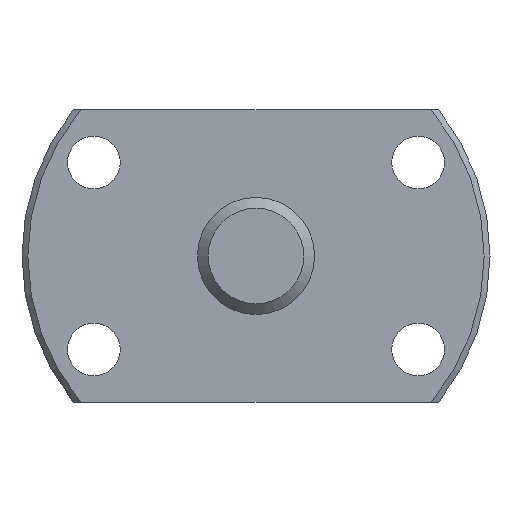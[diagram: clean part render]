
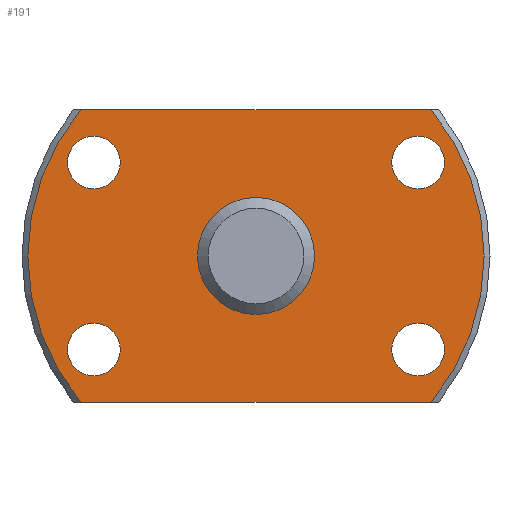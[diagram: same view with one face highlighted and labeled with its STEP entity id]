
A CAD part, left-side view. The second image highlights one B-rep face of the part: STEP entity #191.
In plain terms, the highlighted planar face has unit normal (-1, 0, 0).
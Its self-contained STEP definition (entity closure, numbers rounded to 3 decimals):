
#191 = ADVANCED_FACE( '', ( #271, #272, #273, #274, #275, #276 ), #277, .T. );
#271 = FACE_BOUND( '', #393, .T. );
#272 = FACE_BOUND( '', #394, .T. );
#273 = FACE_BOUND( '', #395, .T. );
#274 = FACE_BOUND( '', #396, .T. );
#275 = FACE_BOUND( '', #397, .T. );
#276 = FACE_OUTER_BOUND( '', #398, .T. );
#277 = PLANE( '', #399 );
#393 = EDGE_LOOP( '', ( #619 ) );
#394 = EDGE_LOOP( '', ( #620 ) );
#395 = EDGE_LOOP( '', ( #621 ) );
#396 = EDGE_LOOP( '', ( #622 ) );
#397 = EDGE_LOOP( '', ( #623 ) );
#398 = EDGE_LOOP( '', ( #624, #625, #626, #627 ) );
#399 = AXIS2_PLACEMENT_3D( '', #628, #629, #630 );
#619 = ORIENTED_EDGE( '', *, *, #854, .T. );
#620 = ORIENTED_EDGE( '', *, *, #856, .T. );
#621 = ORIENTED_EDGE( '', *, *, #857, .T. );
#622 = ORIENTED_EDGE( '', *, *, #858, .T. );
#623 = ORIENTED_EDGE( '', *, *, #859, .T. );
#624 = ORIENTED_EDGE( '', *, *, #848, .F. );
#625 = ORIENTED_EDGE( '', *, *, #860, .F. );
#626 = ORIENTED_EDGE( '', *, *, #819, .F. );
#627 = ORIENTED_EDGE( '', *, *, #861, .F. );
#628 = CARTESIAN_POINT( '', ( 0., 19.5, 0. ) );
#629 = DIRECTION( '', ( -1., 0., 0. ) );
#630 = DIRECTION( '', ( 0., 0., 1. ) );
#819 = EDGE_CURVE( '', #933, #935, #936, .T. );
#848 = EDGE_CURVE( '', #987, #989, #990, .T. );
#854 = EDGE_CURVE( '', #1000, #1000, #1001, .T. );
#856 = EDGE_CURVE( '', #1004, #1004, #1005, .T. );
#857 = EDGE_CURVE( '', #1006, #1006, #1007, .T. );
#858 = EDGE_CURVE( '', #1008, #1008, #1009, .T. );
#859 = EDGE_CURVE( '', #1010, #1010, #1011, .T. );
#860 = EDGE_CURVE( '', #935, #987, #1012, .T. );
#861 = EDGE_CURVE( '', #989, #933, #1013, .T. );
#933 = VERTEX_POINT( '', #1141 );
#935 = VERTEX_POINT( '', #1146 );
#936 = LINE( '', #1147, #1148 );
#987 = VERTEX_POINT( '', #1264 );
#989 = VERTEX_POINT( '', #1269 );
#990 = LINE( '', #1270, #1271 );
#1000 = VERTEX_POINT( '', #1289 );
#1001 = CIRCLE( '', #1290, 5. );
#1004 = VERTEX_POINT( '', #1293 );
#1005 = CIRCLE( '', #1294, 2.25 );
#1006 = VERTEX_POINT( '', #1295 );
#1007 = CIRCLE( '', #1296, 2.25 );
#1008 = VERTEX_POINT( '', #1297 );
#1009 = CIRCLE( '', #1298, 2.25 );
#1010 = VERTEX_POINT( '', #1299 );
#1011 = CIRCLE( '', #1300, 2.25 );
#1012 = CIRCLE( '', #1301, 19.5 );
#1013 = CIRCLE( '', #1302, 19.5 );
#1141 = CARTESIAN_POINT( '', ( 0., 14.967, 12.5 ) );
#1146 = CARTESIAN_POINT( '', ( 0., -14.967, 12.5 ) );
#1147 = CARTESIAN_POINT( '', ( 0., 20., 12.5 ) );
#1148 = VECTOR( '', #1394, 1000. );
#1264 = CARTESIAN_POINT( '', ( 0., -14.967, -12.5 ) );
#1269 = CARTESIAN_POINT( '', ( 0., 14.967, -12.5 ) );
#1270 = CARTESIAN_POINT( '', ( 0., -20., -12.5 ) );
#1271 = VECTOR( '', #1430, 1000. );
#1289 = CARTESIAN_POINT( '', ( 0., 0., -5. ) );
#1290 = AXIS2_PLACEMENT_3D( '', #1436, #1437, #1438 );
#1293 = CARTESIAN_POINT( '', ( 0., -13.856, 5.75 ) );
#1294 = AXIS2_PLACEMENT_3D( '', #1442, #1443, #1444 );
#1295 = CARTESIAN_POINT( '', ( 0., 13.856, -10.25 ) );
#1296 = AXIS2_PLACEMENT_3D( '', #1445, #1446, #1447 );
#1297 = CARTESIAN_POINT( '', ( 0., -13.856, -10.25 ) );
#1298 = AXIS2_PLACEMENT_3D( '', #1448, #1449, #1450 );
#1299 = CARTESIAN_POINT( '', ( 0., 13.856, 5.75 ) );
#1300 = AXIS2_PLACEMENT_3D( '', #1451, #1452, #1453 );
#1301 = AXIS2_PLACEMENT_3D( '', #1454, #1455, #1456 );
#1302 = AXIS2_PLACEMENT_3D( '', #1457, #1458, #1459 );
#1394 = DIRECTION( '', ( 0., -1., 0. ) );
#1430 = DIRECTION( '', ( 0., 1., 0. ) );
#1436 = CARTESIAN_POINT( '', ( 0., 0., 0. ) );
#1437 = DIRECTION( '', ( 1., 0., 0. ) );
#1438 = DIRECTION( '', ( 0., 0., -1. ) );
#1442 = CARTESIAN_POINT( '', ( 0., -13.856, 8. ) );
#1443 = DIRECTION( '', ( 1., 0., 0. ) );
#1444 = DIRECTION( '', ( 0., 0., -1. ) );
#1445 = CARTESIAN_POINT( '', ( 0., 13.856, -8. ) );
#1446 = DIRECTION( '', ( 1., 0., 0. ) );
#1447 = DIRECTION( '', ( 0., 0., -1. ) );
#1448 = CARTESIAN_POINT( '', ( 0., -13.856, -8. ) );
#1449 = DIRECTION( '', ( 1., 0., 0. ) );
#1450 = DIRECTION( '', ( 0., 0., -1. ) );
#1451 = CARTESIAN_POINT( '', ( 0., 13.856, 8. ) );
#1452 = DIRECTION( '', ( 1., 0., 0. ) );
#1453 = DIRECTION( '', ( 0., 0., -1. ) );
#1454 = CARTESIAN_POINT( '', ( 0., 0., 0. ) );
#1455 = DIRECTION( '', ( 1., 0., 0. ) );
#1456 = DIRECTION( '', ( 0., 0., -1. ) );
#1457 = CARTESIAN_POINT( '', ( 0., 0., 0. ) );
#1458 = DIRECTION( '', ( 1., 0., 0. ) );
#1459 = DIRECTION( '', ( 0., 0., -1. ) );
